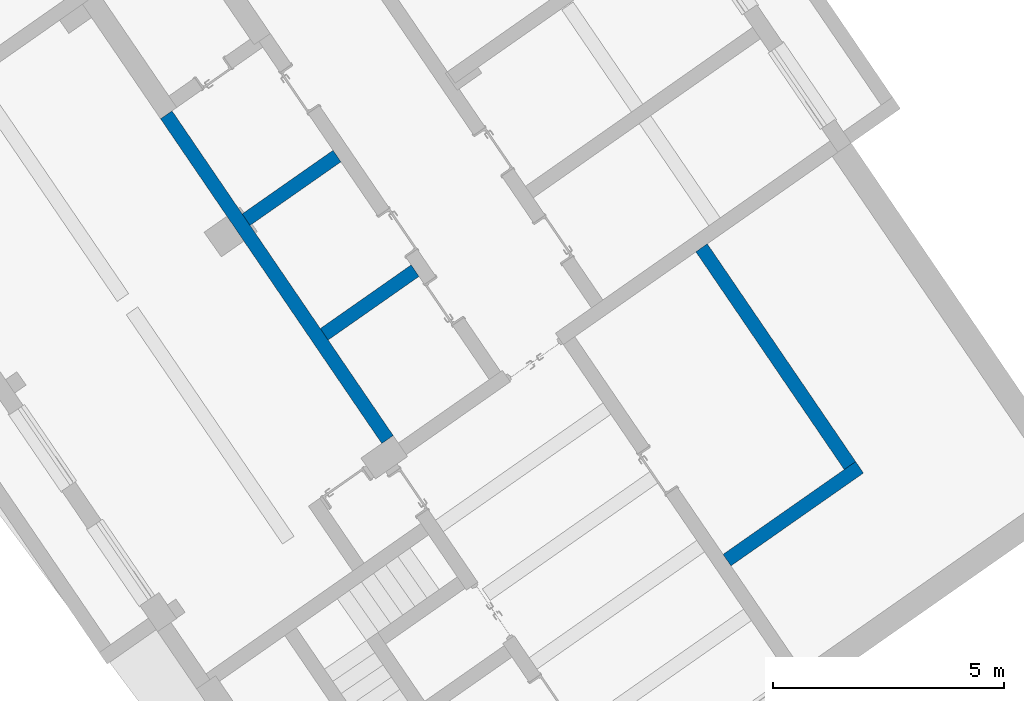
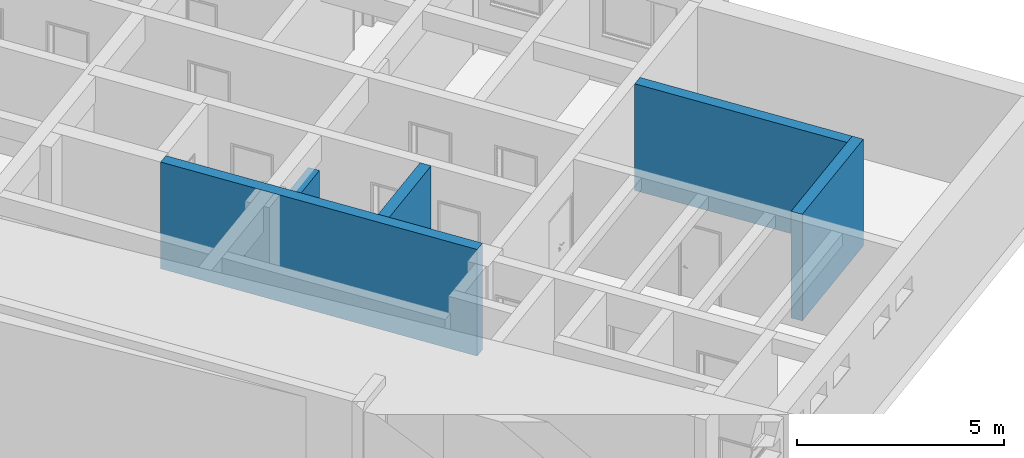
# One storey, part 46 of 112: 5 walls.
"""IFC2X3 building model written with IfcOpenShell, lengths in millimetres."""

from ifc_helpers import new_model, entity, si_unit, converted_unit, derived_unit, direction, frame, origin, place, context, subcontext, project, spatial, polyline, outline, extrude, material, layer, layer_set, layer_usage, type_object, element, save


model = new_model("IFC2X3")

# Units and contexts
model_context = context("Model", 3, precision=0.01, world=origin(), true_north=direction((6.123031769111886e-17, 1.0)))
body_context = subcontext(model_context, "Body", "Model", "MODEL_VIEW")
ifc_project = project(units=[si_unit("LENGTHUNIT", "METRE", prefix="MILLI"), si_unit("AREAUNIT", "SQUARE_METRE"), si_unit("VOLUMEUNIT", "CUBIC_METRE"), converted_unit("PLANEANGLEUNIT", "DEGREE", entity("IfcRatioMeasure", 0.017453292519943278), si_unit("PLANEANGLEUNIT", "RADIAN"), dimensions=[0, 0, 0, 0, 0, 0, 0]), si_unit("MASSUNIT", "GRAM", prefix="KILO"), derived_unit("MASSDENSITYUNIT", [(si_unit("MASSUNIT", "GRAM", prefix="KILO"), 1), (si_unit("LENGTHUNIT", "METRE"), -3)]), derived_unit("MOMENTOFINERTIAUNIT", [(si_unit("LENGTHUNIT", "METRE"), 4)]), si_unit("TIMEUNIT", "SECOND"), si_unit("FREQUENCYUNIT", "HERTZ"), si_unit("THERMODYNAMICTEMPERATUREUNIT", "DEGREE_CELSIUS"), derived_unit("THERMALTRANSMITTANCEUNIT", [(si_unit("MASSUNIT", "GRAM", prefix="KILO"), 1), (si_unit("THERMODYNAMICTEMPERATUREUNIT", "KELVIN"), -1), (si_unit("TIMEUNIT", "SECOND"), -3)]), derived_unit("THERMALCONDUCTANCEUNIT", [(si_unit("MASSUNIT", "GRAM", prefix="KILO"), 1), (si_unit("LENGTHUNIT", "METRE"), 1), (si_unit("THERMODYNAMICTEMPERATUREUNIT", "KELVIN"), -1), (si_unit("TIMEUNIT", "SECOND"), -3)]), derived_unit("VOLUMETRICFLOWRATEUNIT", [(si_unit("LENGTHUNIT", "METRE"), 3), (si_unit("TIMEUNIT", "SECOND"), -1)]), derived_unit("MASSFLOWRATEUNIT", [(si_unit("MASSUNIT", "GRAM", prefix="KILO"), 1), (si_unit("TIMEUNIT", "SECOND"), -1)]), derived_unit("ROTATIONALFREQUENCYUNIT", [(si_unit("TIMEUNIT", "SECOND"), -1)]), si_unit("ELECTRICCURRENTUNIT", "AMPERE"), si_unit("ELECTRICVOLTAGEUNIT", "VOLT"), si_unit("POWERUNIT", "WATT"), converted_unit("FORCEUNIT", "KIP", entity("IfcRatioMeasure", 2.088543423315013e-05), si_unit("FORCEUNIT", "NEWTON"), dimensions=[1, 1, -2, 0, 0, 0, 0]), si_unit("ILLUMINANCEUNIT", "LUX"), si_unit("LUMINOUSFLUXUNIT", "LUMEN"), si_unit("LUMINOUSINTENSITYUNIT", "CANDELA"), derived_unit("USERDEFINED", [(si_unit("MASSUNIT", "GRAM", prefix="KILO"), -1), (si_unit("LENGTHUNIT", "METRE"), -2), (si_unit("TIMEUNIT", "SECOND"), 3), (si_unit("LUMINOUSFLUXUNIT", "LUMEN"), 1)]), derived_unit("USERDEFINED", [(si_unit("MASSUNIT", "GRAM", prefix="KILO"), 1), (si_unit("LENGTHUNIT", "METRE"), 3), (si_unit("TIMEUNIT", "SECOND"), -3), (si_unit("ELECTRICCURRENTUNIT", "AMPERE"), -2)]), derived_unit("USERDEFINED", [(si_unit("LENGTHUNIT", "METRE"), 2), (si_unit("TIMEUNIT", "SECOND"), -2)]), derived_unit("SOUNDPOWERUNIT", [(si_unit("MASSUNIT", "GRAM", prefix="KILO"), 1), (si_unit("LENGTHUNIT", "METRE"), 2), (si_unit("TIMEUNIT", "SECOND"), -3)]), derived_unit("SOUNDPRESSUREUNIT", [(si_unit("MASSUNIT", "GRAM", prefix="KILO"), 1), (si_unit("LENGTHUNIT", "METRE"), -1), (si_unit("TIMEUNIT", "SECOND"), -2)]), derived_unit("LINEARVELOCITYUNIT", [(si_unit("LENGTHUNIT", "METRE"), 1), (si_unit("TIMEUNIT", "SECOND"), -1)]), si_unit("PRESSUREUNIT", "PASCAL"), derived_unit("USERDEFINED", [(si_unit("LENGTHUNIT", "METRE"), -2), (si_unit("MASSUNIT", "GRAM", prefix="KILO"), 1), (si_unit("TIMEUNIT", "SECOND"), -2)]), derived_unit("LINEARFORCEUNIT", [(si_unit("MASSUNIT", "GRAM", prefix="KILO"), 1), (si_unit("LENGTHUNIT", "METRE"), 1), (si_unit("TIMEUNIT", "SECOND"), -2), (si_unit("LENGTHUNIT", "METRE"), -1)]), derived_unit("PLANARFORCEUNIT", [(si_unit("MASSUNIT", "GRAM", prefix="KILO"), 1), (si_unit("LENGTHUNIT", "METRE"), 1), (si_unit("TIMEUNIT", "SECOND"), -2), (si_unit("LENGTHUNIT", "METRE"), -2)]), derived_unit("SPECIFICHEATCAPACITYUNIT", [(si_unit("LENGTHUNIT", "METRE"), 2), (si_unit("TIMEUNIT", "SECOND"), -2), (si_unit("THERMODYNAMICTEMPERATUREUNIT", "KELVIN"), -1)]), derived_unit("VAPORPERMEABILITYUNIT", [(si_unit("TIMEUNIT", "SECOND"), 1), (si_unit("LENGTHUNIT", "METRE"), -1)]), derived_unit("DYNAMICVISCOSITYUNIT", [(si_unit("MASSUNIT", "GRAM", prefix="KILO"), 1), (si_unit("LENGTHUNIT", "METRE"), -1), (si_unit("TIMEUNIT", "SECOND"), -1)]), derived_unit("THERMALEXPANSIONCOEFFICIENTUNIT", [(si_unit("THERMODYNAMICTEMPERATUREUNIT", "KELVIN"), -1)])], contexts=[model_context])

# Site, building, storey
site_placement = place(None, frame((0.0, 0.0, 0.0), z_axis=(0.0, 0.0, 1.0), x_axis=(0.8191520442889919, 0.5735764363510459, 0.0)))
site = spatial("IfcSite", under=ifc_project, at=site_placement, Name="Default", CompositionType="ELEMENT")
building_placement = place(site_placement, origin())
building = spatial("IfcBuilding", under=site, at=building_placement, CompositionType="ELEMENT")
storey_placement = place(building_placement, frame((0.0, 0.0, -3600.0)))
storey = spatial("IfcBuildingStorey", under=building, at=storey_placement, Name="0.UG -3.60", CompositionType="ELEMENT", Elevation=-3600.0000000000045)

# Walls
ifc_material = material(Name="Analytical Wall Surface_CJC")
ifc_layer = layer(ifc_material, 300.0)
ifc_layer_set = layer_set([ifc_layer], Name="Basic Wall:Wand_Innen_30")
ifc_layer_usage_1 = layer_usage(ifc_layer_set, "AXIS2", "NEGATIVE", 150.0)
wall_type = type_object("IfcWallType", Name="Basic Wall:Wand_Innen_30", PredefinedType="STANDARD", material=ifc_layer_set)
wall_1_placement = place(storey_placement, frame((-217334.27631427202, 61769.44947620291, 300.0), z_axis=(0.0, 0.0, 1.0), x_axis=(0.01272958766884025, 0.9999189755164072, 0.0)))
element("IfcWallStandardCase", 1, at=wall_1_placement, inside=storey, type_object=wall_type, material=ifc_layer_usage_1, Name="Basic Wall:Wand_Innen_30", ObjectType="Basic Wall:Wand_Innen_30", context=body_context, shape_type="SweptSolid", body=[
    extrude(outline(polyline([(8500.688763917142, -150.0), (8500.688763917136, 150.0), (5949.029324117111, 150.0), (5298.976653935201, 150.0), (0.0, 150.0), (3.819185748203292, -150.0), (2504.0217633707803, -150.0), (2804.0460726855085, -150.0), (5302.795839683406, -150.0), (5504.264856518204, -150.0), (5804.289165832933, -150.0), (5952.8485098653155, -150.0), (8500.688763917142, -150.0)])), origin(), (0.0, 0.0, 1.0), 3150.000000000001),
])
wall_2_placement = place(storey_placement, frame((-212816.64044231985, 55421.358914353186, 300.0)))
element("IfcWallStandardCase", 2, at=wall_2_placement, inside=storey, type_object=wall_type, material=ifc_layer_usage_1, Name="Basic Wall:Wand_Innen_30", ObjectType="Basic Wall:Wand_Innen_30", context=body_context, shape_type="SweptSolid", body=[
    extrude(outline(polyline([(3500.283608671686, -150.0), (3504.1027944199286, 150.0), (3204.078485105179, 150.0), (3.8191857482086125, 150.0), (0.0, -150.0), (3500.283608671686, -150.0)])), origin(), (0.0, 0.0, 1.0), 3150.0),
])
wall_3_placement = place(storey_placement, frame((-209462.57411088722, 55569.44947620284, 300.0), z_axis=(0.0, 0.0, 1.0), x_axis=(0.012729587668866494, 0.9999189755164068, 0.0)))
element("IfcWallStandardCase", 3, at=wall_3_placement, inside=storey, type_object=wall_type, material=ifc_layer_usage_1, Name="Basic Wall:Wand_Innen_30", ObjectType="Basic Wall:Wand_Innen_30", context=body_context, shape_type="SweptSolid", body=[
    extrude(outline(polyline([(5704.281062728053, -150.0), (5700.46187697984, 150.0), (0.0, 150.0), (3.8191857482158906, -150.0), (5704.281062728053, -150.0)])), origin(), (0.0, 0.0, 1.0), 3150.0),
])
wall_4_placement = place(storey_placement, frame((-214748.39964311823, 64421.35891435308, 300.0), z_axis=(0.0, 0.0, 1.0), x_axis=(-1.0, 0.0, 0.0)))
element("IfcWallStandardCase", 4, at=wall_4_placement, inside=storey, type_object=wall_type, material=ifc_layer_usage_1, Name="Basic Wall:Wand_Innen_30", ObjectType="Basic Wall:Wand_Innen_30", context=body_context, shape_type="SweptSolid", body=[
    extrude(outline(polyline([(2400.194474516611, -150.0), (2404.013660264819, 150.0), (3.8191857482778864, 150.0), (0.0, -150.0), (2400.194474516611, -150.0)])), origin(), (0.0, 0.0, 1.0), 3150.0),
])
ifc_layer_usage_2 = layer_usage(ifc_layer_set, "AXIS2", "POSITIVE", -150.0)
wall_5_placement = place(storey_placement, frame((-214710.2077856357, 67421.35891435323, 300.0), z_axis=(0.0, 0.0, 1.0), x_axis=(-1.0, 0.0, 0.0)))
element("IfcWallStandardCase", 5, at=wall_5_placement, inside=storey, type_object=wall_type, material=ifc_layer_usage_2, Name="Basic Wall:Wand_Innen_30", ObjectType="Basic Wall:Wand_Innen_30", context=body_context, shape_type="SweptSolid", body=[
    extrude(outline(polyline([(2400.1944745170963, -150.0), (2404.013660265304, 150.0), (2352.463181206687, 150.0), (3.8191857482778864, 150.0), (0.0, -150.0), (2352.4631812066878, -150.0), (2400.1944745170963, -150.0)])), origin(), (0.0, 0.0, 1.0), 2100.0),
])

save(model, "model.ifc")
